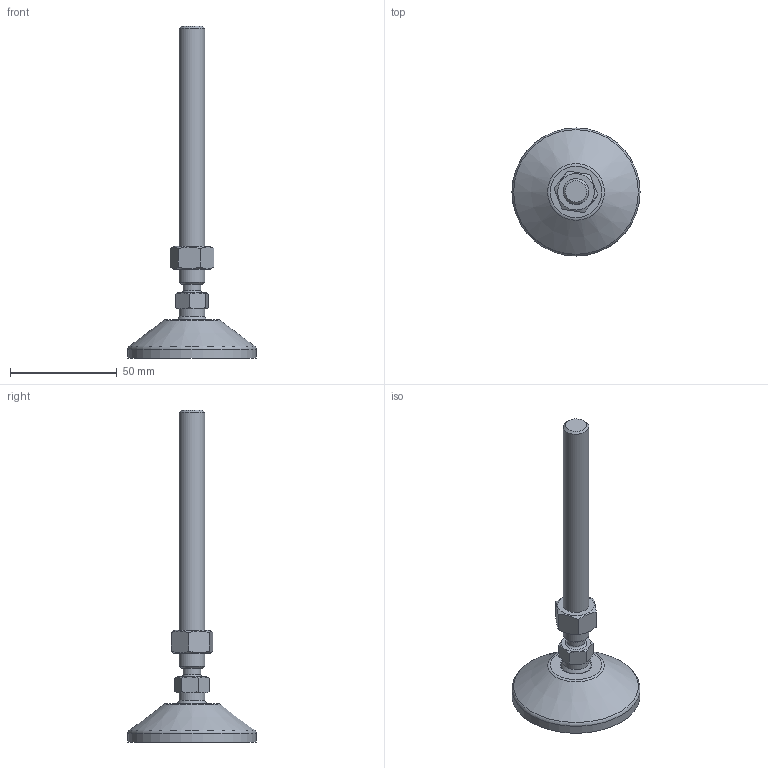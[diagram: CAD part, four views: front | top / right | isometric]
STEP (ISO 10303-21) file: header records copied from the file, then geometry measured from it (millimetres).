
FILE_DESCRIPTION(('STEP AP203'), '1');
FILE_NAME('栖闉罻', '', ('UNSPECIFIED'), ('UNSPECIFIED'), 'C3D Converter', 'C3D Toolkit', '');
FILE_SCHEMA(('CONFIG_CONTROL_DESIGN'));
Length unit declared in the file: millimetre
Products named in the file (4): A00020.112125; A00015.1060
Assembly tree (3 placements, depth 3):
  (unnamed)
    A00020.112125
      (unnamed)
    A00015.1060
Bounding box: 60 x 60 x 155.48 mm (x, y, z)
Volume: 38925.4 mm3; surface area: 17174.6 mm2
Topology: 3 solids, 3 shells, 165 faces, 428 edges, 282 vertices
Faces by surface type: plane 87, cylinder 34, cone 21, torus 21, sphere 2
Full cylindrical faces by diameter (mm): 4 x8, 8.3 x1, 10.647 x1, 12 x2, 14.3 x1, 15 x2, 15.5 x1, 50.5 x1, 60 x1
Entity records: 8635 total; most frequent: CARTESIAN_POINT 3215, DIRECTION 812, ORIENTED_EDGE 786, EDGE_CURVE 393, AXIS2_PLACEMENT_3D 336, VERTEX_POINT 281, EDGE_LOOP 214, FACE_BOUND 174
